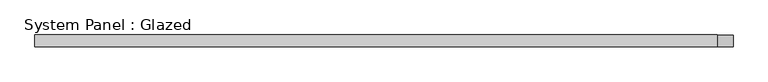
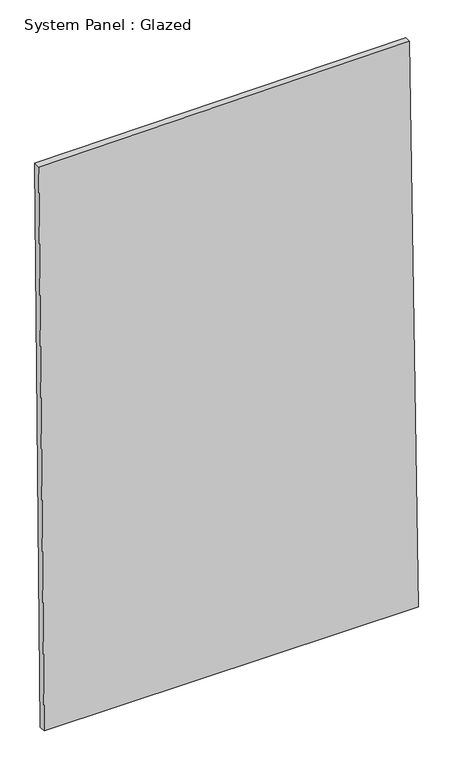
"""IFC4 building model written with IfcOpenShell, lengths in millimetres: plate geometry, System Panel : Glazed."""

from ifc_helpers import new_model, si_unit, frame, origin, place, context, project, spatial, polyline, outline, extrude, source, transform, mapped, element, save


def system_panel_glazed_e6de464a(model_context):
    return source(origin(), model_context, "Body", "SweptSolid", [
        extrude(outline(polyline([(0.0, -716.1009997), (0.0, 737.1495352), (2333.2951863, 703.5960932), (2322.6028931, -737.1495352), (0.0, -716.1009997)])), frame((0.0, -49.5, 0.0), z_axis=(0.0, 1.0, 0.0), x_axis=(0.0, 0.0, 1.0)), (0.0, 0.0, 1.0), 25.0),
    ])


if __name__ == "__main__":
    model = new_model("IFC4")
    model_context = context("Model", 3, world=origin())
    ifc_project = project(units=[si_unit("LENGTHUNIT", "METRE", prefix="MILLI")], contexts=[model_context])
    site = spatial("IfcSite", under=ifc_project)
    building = spatial("IfcBuilding", under=site)
    placement = place(None, origin())
    system_panel_glazed_shape = system_panel_glazed_e6de464a(model_context)
    element("IfcPlate", 1, ObjectType="System Panel : Glazed", at=placement, inside=building, context=model_context, shape_type="MappedRepresentation", body=[
        mapped(system_panel_glazed_shape, transform((0.0, 0.0, 0.0), x_axis=(1.0, 0.0, 0.0), y_axis=(0.0, 1.0, 0.0), z_axis=(0.0, 0.0, 1.0))),
    ])
    save(model, "model.ifc")
